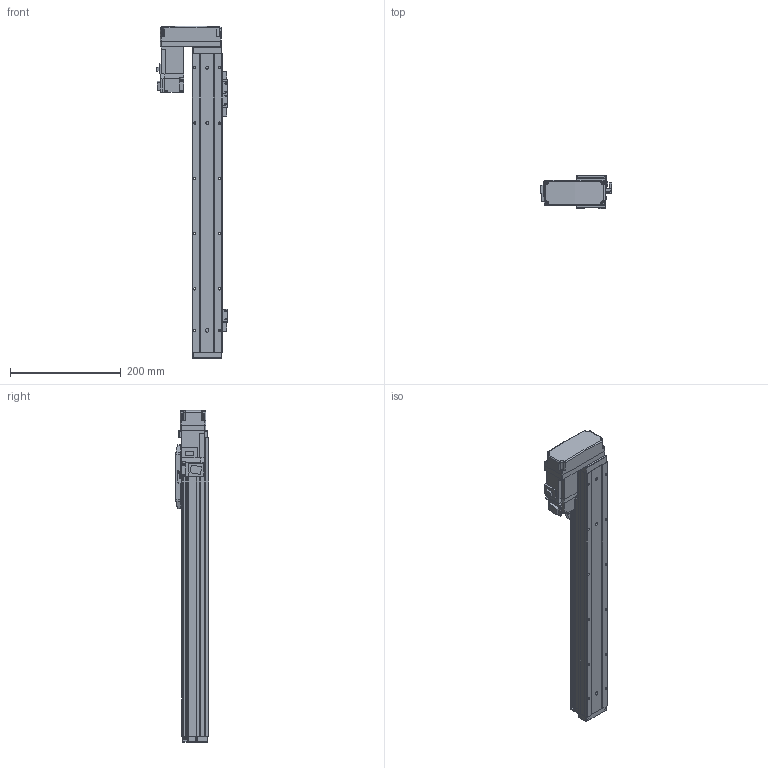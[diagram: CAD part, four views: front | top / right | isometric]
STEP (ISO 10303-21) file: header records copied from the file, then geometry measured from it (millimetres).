
FILE_DESCRIPTION (( 'STEP AP214' ), '1' );
FILE_NAME ('N_GRH5-400-BR-M10.step', '2025-03-14T10:58:03', ( '' ), ( '' ), 'SwSTEP 2.0', 'SolidWorks 2016', '' );
FILE_SCHEMA (( 'AUTOMOTIVE_DESIGN' ));
Length unit declared in the file: millimetre
Products named in the file (5): N_GRH5-GY-011^N_GRH5-400-BR-M10; N_GRH5-BL-008^N_GRH5-400-BR-M10; N_GRH5-400-BR-M10; N_GRH5-GY-004^N_GRH5-400-BR-M10; HF-KP13_100W_Motor^N_GRH5-400-BR-M10
Assembly tree (4 placements, depth 2):
  N_GRH5-400-BR-M10
    N_GRH5-GY-011^N_GRH5-400-BR-M10
    N_GRH5-GY-004^N_GRH5-400-BR-M10
    HF-KP13_100W_Motor^N_GRH5-400-BR-M10
    N_GRH5-BL-008^N_GRH5-400-BR-M10
Bounding box: 128.85 x 60 x 600.5 mm (x, y, z)
Volume: 1245878.6 mm3; surface area: 306947.8 mm2
Topology: 4 solids, 5 shells, 944 faces, 2408 edges, 1525 vertices
Faces by surface type: plane 549, cylinder 320, cone 50, bspline 15, sphere 10
Entity records: 35939 total; most frequent: CARTESIAN_POINT 5643, DIRECTION 4865, ORIENTED_EDGE 4752, EDGE_CURVE 2376, LINE 1643, VECTOR 1643, AXIS2_PLACEMENT_3D 1611, VERTEX_POINT 1523
